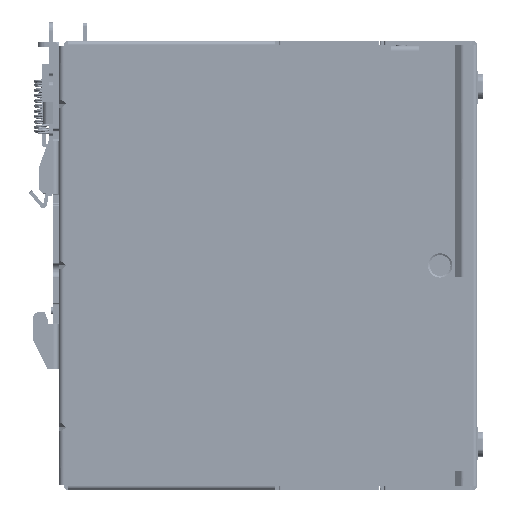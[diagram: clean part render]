
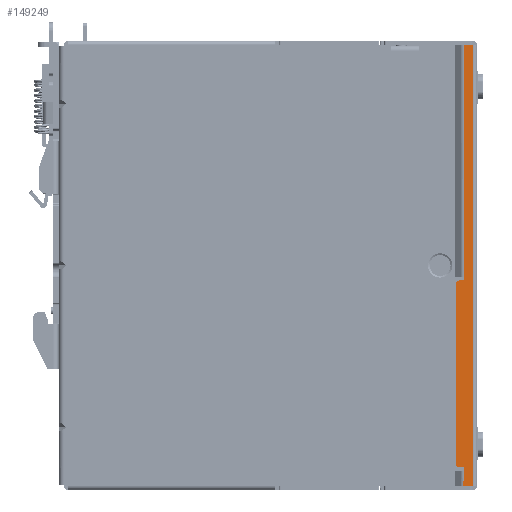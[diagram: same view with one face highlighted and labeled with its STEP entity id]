
A CAD part, front view. The second image highlights one B-rep face of the part: STEP entity #149249.
In plain terms, the highlighted planar face has unit normal (0, -1, 0).
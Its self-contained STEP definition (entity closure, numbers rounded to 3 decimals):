
#10396=CARTESIAN_POINT('',(108.844,-0.001,
-115.6));
#10397=DIRECTION('',(0.,1.,0.));
#10398=DIRECTION('',(0.,0.,-1.));
#10399=AXIS2_PLACEMENT_3D('',#10396,#10397,#10398);
#10401=DIRECTION('',(0.,0.,1.));
#10402=VECTOR('',#10401,49.5);
#10403=CARTESIAN_POINT('',(107.844,-0.001,
-115.6));
#10404=LINE('',#10403,#10402);
#10405=CARTESIAN_POINT('',(108.847,-0.001,
-66.1));
#10406=DIRECTION('',(0.,1.,0.));
#10407=DIRECTION('',(-1.,0.,0.));
#10408=AXIS2_PLACEMENT_3D('',#10405,#10406,#10407);
#10410=DIRECTION('',(1.,0.,0.));
#10411=VECTOR('',#10410,1.1);
#10412=CARTESIAN_POINT('',(108.847,-0.001,
-65.1));
#10413=LINE('',#10412,#10411);
#10414=CARTESIAN_POINT('',(109.947,-0.001,
-65.1));
#10415=CARTESIAN_POINT('',(109.947,-0.001,
-64.987));
#10416=CARTESIAN_POINT('',(109.946,-0.001,
-64.761));
#10417=CARTESIAN_POINT('',(109.947,-0.001,
-64.428));
#10418=CARTESIAN_POINT('',(109.946,-0.001,
-64.209));
#10419=CARTESIAN_POINT('',(109.946,-0.001,
-64.1));
#10421=DIRECTION('',(1.,0.,0.));
#10422=VECTOR('',#10421,2.563);
#10423=CARTESIAN_POINT('',(109.936,-0.001,
-0.4));
#10424=LINE('',#10423,#10422);
#10425=DIRECTION('',(-1.,0.,0.));
#10426=VECTOR('',#10425,2.563);
#10427=CARTESIAN_POINT('',(112.494,-0.001,
-121.6));
#10428=LINE('',#10427,#10426);
#10429=CARTESIAN_POINT('',(109.943,-0.001,
-117.6));
#10430=CARTESIAN_POINT('',(109.944,-0.001,
-117.492));
#10431=CARTESIAN_POINT('',(109.945,-0.001,
-117.273));
#10432=CARTESIAN_POINT('',(109.944,-0.001,
-116.939));
#10433=CARTESIAN_POINT('',(109.944,-0.001,
-116.714));
#10434=CARTESIAN_POINT('',(109.944,-0.001,
-116.6));
#10436=DIRECTION('',(-1.,0.,0.));
#10437=VECTOR('',#10436,1.1);
#10438=CARTESIAN_POINT('',(109.944,-0.001,
-116.6));
#10439=LINE('',#10438,#10437);
#10472=CARTESIAN_POINT('',(109.943,-0.001,
-117.6));
#10473=CARTESIAN_POINT('',(109.942,-0.001,
-118.045));
#10474=CARTESIAN_POINT('',(109.939,-0.001,
-118.934));
#10475=CARTESIAN_POINT('',(109.935,-0.001,
-120.267));
#10476=CARTESIAN_POINT('',(109.932,-0.001,
-121.156));
#10477=CARTESIAN_POINT('',(109.931,-0.001,
-121.6));
#10646=CARTESIAN_POINT('',(109.936,-0.001,
-0.4));
#10647=CARTESIAN_POINT('',(109.937,-0.001,
-7.478));
#10648=CARTESIAN_POINT('',(109.939,-0.001,
-21.634));
#10649=CARTESIAN_POINT('',(109.942,-0.001,
-42.867));
#10650=CARTESIAN_POINT('',(109.945,-0.001,
-57.023));
#10651=CARTESIAN_POINT('',(109.946,-0.001,
-64.1));
#98176=DIRECTION('',(0.,0.,1.));
#98177=VECTOR('',#98176,121.2);
#98178=CARTESIAN_POINT('',(112.494,-0.001,
-121.6));
#98179=LINE('',#98178,#98177);
#114722=CARTESIAN_POINT('',(109.936,-0.001,
-0.4));
#114723=VERTEX_POINT('',#114722);
#114724=VERTEX_POINT('',#10651);
#114727=CARTESIAN_POINT('',(112.499,-0.001,
-0.4));
#114728=VERTEX_POINT('',#114727);
#114731=CARTESIAN_POINT('',(108.844,-0.001,
-116.6));
#114732=CARTESIAN_POINT('',(107.844,-0.001,
-115.6));
#114733=VERTEX_POINT('',#114731);
#114734=VERTEX_POINT('',#114732);
#114735=CARTESIAN_POINT('',(107.847,-0.001,
-66.1));
#114736=VERTEX_POINT('',#114735);
#114737=CARTESIAN_POINT('',(108.847,-0.001,
-65.1));
#114738=VERTEX_POINT('',#114737);
#114739=CARTESIAN_POINT('',(109.947,-0.001,
-65.1));
#114740=VERTEX_POINT('',#114739);
#114741=CARTESIAN_POINT('',(112.494,-0.001,
-121.6));
#114742=VERTEX_POINT('',#114741);
#114743=CARTESIAN_POINT('',(109.931,-0.001,
-121.6));
#114744=VERTEX_POINT('',#114743);
#114745=VERTEX_POINT('',#10472);
#114746=VERTEX_POINT('',#10434);
#149219=CARTESIAN_POINT('',(113.699,-0.001,
-0.4));
#149220=DIRECTION('',(0.,-1.,0.));
#149221=DIRECTION('',(0.,0.,1.));
#149222=AXIS2_PLACEMENT_3D('',#149219,#149220,#149221);
#149223=PLANE('',#149222);
#149225=ORIENTED_EDGE('',*,*,#149224,.T.);
#149227=ORIENTED_EDGE('',*,*,#149226,.T.);
#149229=ORIENTED_EDGE('',*,*,#149228,.T.);
#149231=ORIENTED_EDGE('',*,*,#149230,.T.);
#149233=ORIENTED_EDGE('',*,*,#149232,.T.);
#149235=ORIENTED_EDGE('',*,*,#149234,.F.);
#149237=ORIENTED_EDGE('',*,*,#149236,.T.);
#149239=ORIENTED_EDGE('',*,*,#149238,.F.);
#149240=ORIENTED_EDGE('',*,*,#149197,.T.);
#149242=ORIENTED_EDGE('',*,*,#149241,.F.);
#149244=ORIENTED_EDGE('',*,*,#149243,.T.);
#149246=ORIENTED_EDGE('',*,*,#149245,.T.);
#149247=EDGE_LOOP('',(#149225,#149227,#149229,#149231,#149233,#149235,#149237,
#149239,#149240,#149242,#149244,#149246));
#149248=FACE_OUTER_BOUND('',#149247,.F.);
#149249=ADVANCED_FACE('',(#149248),#149223,.T.);
#10400=CIRCLE('',#10399,1.);
#10409=CIRCLE('',#10408,1.);
#10420=B_SPLINE_CURVE_WITH_KNOTS('',3,(#10414,#10415,#10416,#10417,#10418,
#10419),.UNSPECIFIED.,.F.,.F.,(4,1,1,4),(0.,0.333,
0.667,1.),.UNSPECIFIED.);
#10435=B_SPLINE_CURVE_WITH_KNOTS('',3,(#10429,#10430,#10431,#10432,#10433,
#10434),.UNSPECIFIED.,.F.,.F.,(4,1,1,4),(0.,0.333,
0.667,1.),.UNSPECIFIED.);
#10478=B_SPLINE_CURVE_WITH_KNOTS('',3,(#10472,#10473,#10474,#10475,#10476,
#10477),.UNSPECIFIED.,.F.,.F.,(4,1,1,4),(0.,0.333,
0.667,1.),.UNSPECIFIED.);
#10652=B_SPLINE_CURVE_WITH_KNOTS('',3,(#10646,#10647,#10648,#10649,#10650,
#10651),.UNSPECIFIED.,.F.,.F.,(4,1,1,4),(0.,0.333,
0.667,1.),.UNSPECIFIED.);
#149197=EDGE_CURVE('',#114742,#114744,#10428,.T.);
#149224=EDGE_CURVE('',#114733,#114734,#10400,.T.);
#149226=EDGE_CURVE('',#114734,#114736,#10404,.T.);
#149228=EDGE_CURVE('',#114736,#114738,#10409,.T.);
#149230=EDGE_CURVE('',#114738,#114740,#10413,.T.);
#149232=EDGE_CURVE('',#114740,#114724,#10420,.T.);
#149234=EDGE_CURVE('',#114723,#114724,#10652,.T.);
#149236=EDGE_CURVE('',#114723,#114728,#10424,.T.);
#149238=EDGE_CURVE('',#114742,#114728,#98179,.T.);
#149241=EDGE_CURVE('',#114745,#114744,#10478,.T.);
#149243=EDGE_CURVE('',#114745,#114746,#10435,.T.);
#149245=EDGE_CURVE('',#114746,#114733,#10439,.T.);
